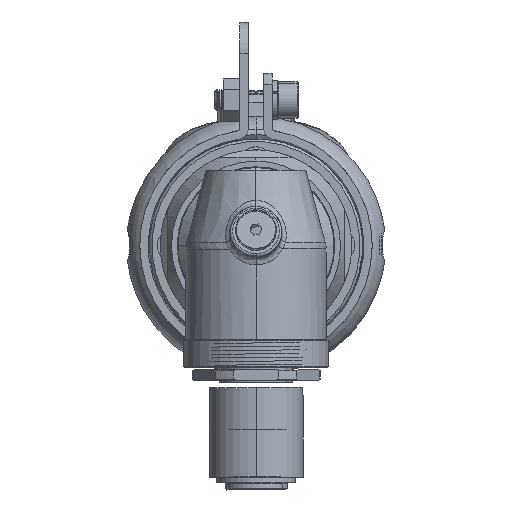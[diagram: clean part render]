
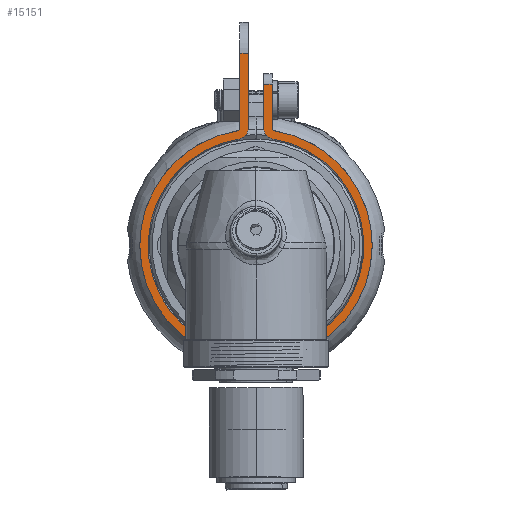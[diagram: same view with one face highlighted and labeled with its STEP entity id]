
A CAD part, front view. The second image highlights one B-rep face of the part: STEP entity #15151.
In plain terms, the highlighted planar face has unit normal (0, -1, 0).
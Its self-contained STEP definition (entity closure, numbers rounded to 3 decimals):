
#459 = CARTESIAN_POINT ( 'NONE',  ( 0., 0., 0. ) ) ;
#1371 = ORIENTED_EDGE ( 'NONE', *, *, #75667, .T. ) ;
#1524 = EDGE_CURVE ( 'NONE', #69423, #46326, #84880, .T. ) ;
#2847 = ORIENTED_EDGE ( 'NONE', *, *, #36653, .T. ) ;
#3644 = ORIENTED_EDGE ( 'NONE', *, *, #16480, .T. ) ;
#3961 = DIRECTION ( 'NONE',  ( 0., 1., 0. ) ) ;
#5003 = DIRECTION ( 'NONE',  ( 0., -1., 0. ) ) ;
#6131 = VECTOR ( 'NONE', #98119, 1000. ) ;
#6884 = EDGE_CURVE ( 'NONE', #99901, #11046, #67617, .T. ) ;
#7874 = CARTESIAN_POINT ( 'NONE',  ( 0., 0., 0. ) ) ;
#8696 = CARTESIAN_POINT ( 'NONE',  ( -3.1, 0., 0. ) ) ;
#9064 = CARTESIAN_POINT ( 'NONE',  ( 3.1, 0., 31. ) ) ;
#9874 = CARTESIAN_POINT ( 'NONE',  ( 0., 0., 37. ) ) ;
#10044 = ORIENTED_EDGE ( 'NONE', *, *, #95231, .T. ) ;
#11046 = VERTEX_POINT ( 'NONE', #58806 ) ;
#11234 = DIRECTION ( 'NONE',  ( 0., 0., 1. ) ) ;
#13151 = LINE ( 'NONE', #46698, #88983 ) ;
#13271 = AXIS2_PLACEMENT_3D ( 'NONE', #7874, #66632, #100102 ) ;
#14318 = EDGE_CURVE ( 'NONE', #99901, #20125, #79784, .T. ) ;
#15151 = ADVANCED_FACE ( 'NONE', ( #61060 ), #96651, .T. ) ;
#16480 = EDGE_CURVE ( 'NONE', #24457, #40807, #68605, .T. ) ;
#17519 = EDGE_CURVE ( 'NONE', #26169, #11046, #33096, .T. ) ;
#17593 = EDGE_LOOP ( 'NONE', ( #20403, #84774, #73879, #3644, #10044, #102330, #78766, #43855, #2847, #91031, #17611, #1371, #102782, #94000 ) ) ;
#17611 = ORIENTED_EDGE ( 'NONE', *, *, #36486, .T. ) ;
#18387 = VECTOR ( 'NONE', #11234, 1000. ) ;
#18602 = DIRECTION ( 'NONE',  ( 0., -1., 0. ) ) ;
#20034 = LINE ( 'NONE', #96305, #92059 ) ;
#20125 = VERTEX_POINT ( 'NONE', #82620 ) ;
#20403 = ORIENTED_EDGE ( 'NONE', *, *, #6884, .F. ) ;
#21470 = DIRECTION ( 'NONE',  ( 1., 0., 0. ) ) ;
#22704 = VECTOR ( 'NONE', #42236, 1000. ) ;
#24457 = VERTEX_POINT ( 'NONE', #100811 ) ;
#25736 = CARTESIAN_POINT ( 'NONE',  ( 3.521, 0., 22.071 ) ) ;
#26169 = VERTEX_POINT ( 'NONE', #53114 ) ;
#26691 = EDGE_CURVE ( 'NONE', #24457, #20125, #20034, .T. ) ;
#28388 = CARTESIAN_POINT ( 'NONE',  ( 22.35, 0., 0. ) ) ;
#28661 = CARTESIAN_POINT ( 'NONE',  ( 0., 0., 0. ) ) ;
#30131 = AXIS2_PLACEMENT_3D ( 'NONE', #56118, #3961, #47887 ) ;
#32844 = CARTESIAN_POINT ( 'NONE',  ( -3.6, 0., 22.565 ) ) ;
#33096 = CIRCLE ( 'NONE', #94449, 2.1 ) ;
#36486 = EDGE_CURVE ( 'NONE', #76084, #43910, #13151, .T. ) ;
#36653 = EDGE_CURVE ( 'NONE', #54740, #69011, #69733, .T. ) ;
#38511 = CARTESIAN_POINT ( 'NONE',  ( 3.1, 0., 22.565 ) ) ;
#38890 = LINE ( 'NONE', #39423, #6131 ) ;
#39423 = CARTESIAN_POINT ( 'NONE',  ( 1.5, 0., 31. ) ) ;
#39916 = AXIS2_PLACEMENT_3D ( 'NONE', #28661, #62120, #21470 ) ;
#40807 = VERTEX_POINT ( 'NONE', #90627 ) ;
#42236 = DIRECTION ( 'NONE',  ( 0., 0., -1. ) ) ;
#43264 = VERTEX_POINT ( 'NONE', #101707 ) ;
#43352 = CARTESIAN_POINT ( 'NONE',  ( 0., 0., 0. ) ) ;
#43450 = AXIS2_PLACEMENT_3D ( 'NONE', #43352, #18602, #50452 ) ;
#43855 = ORIENTED_EDGE ( 'NONE', *, *, #65052, .T. ) ;
#43910 = VERTEX_POINT ( 'NONE', #9064 ) ;
#44332 = DIRECTION ( 'NONE',  ( 1., 0., 0. ) ) ;
#46326 = VERTEX_POINT ( 'NONE', #79662 ) ;
#46461 = DIRECTION ( 'NONE',  ( 1., 0., 0. ) ) ;
#46698 = CARTESIAN_POINT ( 'NONE',  ( 3.1, 0., 0. ) ) ;
#47001 = DIRECTION ( 'NONE',  ( 0., -1., 0. ) ) ;
#47325 = LINE ( 'NONE', #80218, #18387 ) ;
#47887 = DIRECTION ( 'NONE',  ( 1., 0., 0. ) ) ;
#48142 = AXIS2_PLACEMENT_3D ( 'NONE', #102847, #85301, #78144 ) ;
#50452 = DIRECTION ( 'NONE',  ( 1., 0., 0. ) ) ;
#51330 = CARTESIAN_POINT ( 'NONE',  ( -22.35, 0., 0. ) ) ;
#51614 = AXIS2_PLACEMENT_3D ( 'NONE', #106742, #47001, #46461 ) ;
#53114 = CARTESIAN_POINT ( 'NONE',  ( 1.5, 0., 22.565 ) ) ;
#53544 = DIRECTION ( 'NONE',  ( 0., 0., -1. ) ) ;
#54740 = VERTEX_POINT ( 'NONE', #28388 ) ;
#56118 = CARTESIAN_POINT ( 'NONE',  ( 3.6, 0., 22.565 ) ) ;
#58806 = CARTESIAN_POINT ( 'NONE',  ( 3.269, 0., 20.491 ) ) ;
#61060 = FACE_OUTER_BOUND ( 'NONE', #17593, .T. ) ;
#62120 = DIRECTION ( 'NONE',  ( 0., -1., 0. ) ) ;
#63631 = EDGE_CURVE ( 'NONE', #26169, #43264, #47325, .T. ) ;
#64775 = DIRECTION ( 'NONE',  ( 0., -1., 0. ) ) ;
#65052 = EDGE_CURVE ( 'NONE', #77194, #54740, #86949, .T. ) ;
#66288 = DIRECTION ( 'NONE',  ( 0., -1., 0. ) ) ;
#66438 = DIRECTION ( 'NONE',  ( -1., 0., 0. ) ) ;
#66632 = DIRECTION ( 'NONE',  ( 0., -1., 0. ) ) ;
#67617 = CIRCLE ( 'NONE', #92234, 20.75 ) ;
#68605 = LINE ( 'NONE', #9874, #74995 ) ;
#69011 = VERTEX_POINT ( 'NONE', #25736 ) ;
#69423 = VERTEX_POINT ( 'NONE', #106208 ) ;
#69733 = CIRCLE ( 'NONE', #43450, 22.35 ) ;
#73879 = ORIENTED_EDGE ( 'NONE', *, *, #26691, .F. ) ;
#73979 = CIRCLE ( 'NONE', #30131, 0.5 ) ;
#74995 = VECTOR ( 'NONE', #66438, 1000. ) ;
#75667 = EDGE_CURVE ( 'NONE', #43910, #43264, #38890, .T. ) ;
#76084 = VERTEX_POINT ( 'NONE', #38511 ) ;
#77150 = CARTESIAN_POINT ( 'NONE',  ( 3.6, 0., 22.565 ) ) ;
#77194 = VERTEX_POINT ( 'NONE', #51330 ) ;
#78144 = DIRECTION ( 'NONE',  ( 1., 0., 0. ) ) ;
#78766 = ORIENTED_EDGE ( 'NONE', *, *, #103930, .T. ) ;
#78779 = CARTESIAN_POINT ( 'NONE',  ( -3.269, 0., 20.491 ) ) ;
#79662 = CARTESIAN_POINT ( 'NONE',  ( -3.521, 0., 22.071 ) ) ;
#79784 = CIRCLE ( 'NONE', #102612, 2.1 ) ;
#80218 = CARTESIAN_POINT ( 'NONE',  ( 1.5, 0., 43. ) ) ;
#80459 = EDGE_CURVE ( 'NONE', #69011, #76084, #73979, .T. ) ;
#81730 = LINE ( 'NONE', #8696, #22704 ) ;
#82620 = CARTESIAN_POINT ( 'NONE',  ( -1.5, 0., 22.565 ) ) ;
#84774 = ORIENTED_EDGE ( 'NONE', *, *, #14318, .T. ) ;
#84880 = CIRCLE ( 'NONE', #48142, 0.5 ) ;
#85301 = DIRECTION ( 'NONE',  ( 0., 1., 0. ) ) ;
#86949 = CIRCLE ( 'NONE', #13271, 22.35 ) ;
#88464 = DIRECTION ( 'NONE',  ( 1., 0., 0. ) ) ;
#88983 = VECTOR ( 'NONE', #104835, 1000. ) ;
#90627 = CARTESIAN_POINT ( 'NONE',  ( -3.1, 0., 37. ) ) ;
#91031 = ORIENTED_EDGE ( 'NONE', *, *, #80459, .T. ) ;
#92059 = VECTOR ( 'NONE', #53544, 1000. ) ;
#92234 = AXIS2_PLACEMENT_3D ( 'NONE', #459, #64775, #98252 ) ;
#94000 = ORIENTED_EDGE ( 'NONE', *, *, #17519, .T. ) ;
#94449 = AXIS2_PLACEMENT_3D ( 'NONE', #77150, #5003, #88464 ) ;
#95231 = EDGE_CURVE ( 'NONE', #40807, #69423, #81730, .T. ) ;
#96305 = CARTESIAN_POINT ( 'NONE',  ( -1.5, 0., 43. ) ) ;
#96651 = PLANE ( 'NONE',  #39916 ) ;
#98119 = DIRECTION ( 'NONE',  ( -1., 0., 0. ) ) ;
#98252 = DIRECTION ( 'NONE',  ( 1., 0., 0. ) ) ;
#98910 = CIRCLE ( 'NONE', #51614, 22.35 ) ;
#99901 = VERTEX_POINT ( 'NONE', #78779 ) ;
#100102 = DIRECTION ( 'NONE',  ( 1., 0., 0. ) ) ;
#100811 = CARTESIAN_POINT ( 'NONE',  ( -1.5, 0., 37. ) ) ;
#101707 = CARTESIAN_POINT ( 'NONE',  ( 1.5, 0., 31. ) ) ;
#102330 = ORIENTED_EDGE ( 'NONE', *, *, #1524, .T. ) ;
#102612 = AXIS2_PLACEMENT_3D ( 'NONE', #32844, #66288, #44332 ) ;
#102782 = ORIENTED_EDGE ( 'NONE', *, *, #63631, .F. ) ;
#102847 = CARTESIAN_POINT ( 'NONE',  ( -3.6, 0., 22.565 ) ) ;
#103930 = EDGE_CURVE ( 'NONE', #46326, #77194, #98910, .T. ) ;
#104835 = DIRECTION ( 'NONE',  ( 0., 0., 1. ) ) ;
#106208 = CARTESIAN_POINT ( 'NONE',  ( -3.1, 0., 22.565 ) ) ;
#106742 = CARTESIAN_POINT ( 'NONE',  ( 0., 0., 0. ) ) ;
